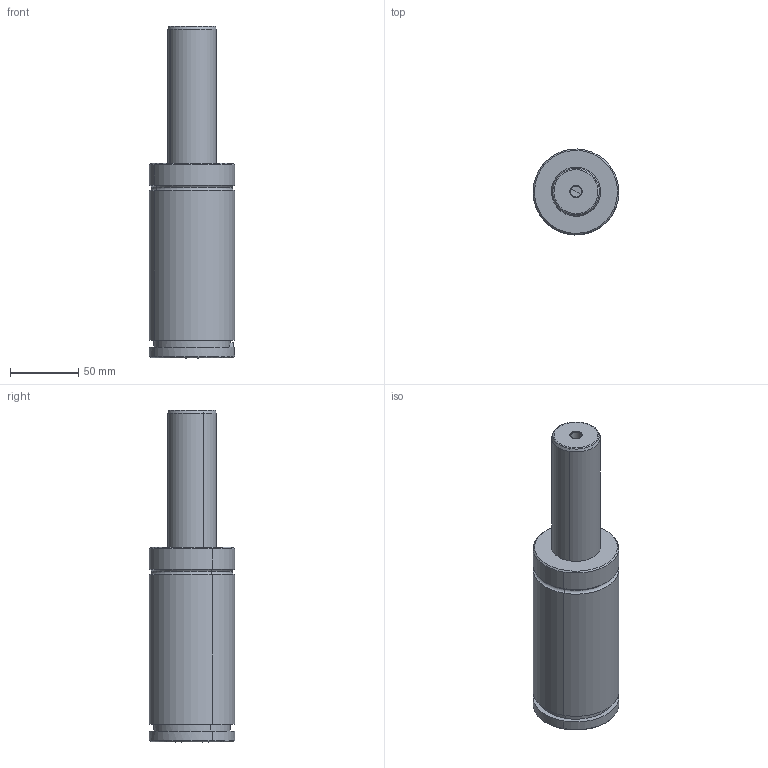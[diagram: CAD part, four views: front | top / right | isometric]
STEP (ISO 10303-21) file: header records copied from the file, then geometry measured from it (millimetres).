
FILE_DESCRIPTION(('FreeCAD Model'),'2;1');
FILE_NAME('Open CASCADE Shape Model','2024-11-12T12:25:35',('Author'),( ''),'Open CASCADE STEP processor 7.6','FreeCAD','Unknown');
FILE_SCHEMA(('AUTOMOTIVE_DESIGN { 1 0 10303 214 1 1 1 1 }'));
Length unit declared in the file: millimetre
Products named in the file (2): Part001; Cut
Assembly tree (1 placements, depth 2):
  Part001
    Cut
Bounding box: 62.99 x 62.98 x 244 mm (x, y, z)
Volume: 540715.4 mm3; surface area: 49089.7 mm2
Topology: 1 solids, 2 shells, 94 faces, 213 edges, 127 vertices
Faces by surface type: cone 34, cylinder 31, plane 21, torus 8
Full cylindrical faces by diameter (mm): 8 x4
Entity records: 3226 total; most frequent: CARTESIAN_POINT 1180, ORIENTED_EDGE 414, DIRECTION 408, EDGE_CURVE 207, AXIS2_PLACEMENT_3D 167, VERTEX_POINT 127, FACE_BOUND 106, EDGE_LOOP 106
